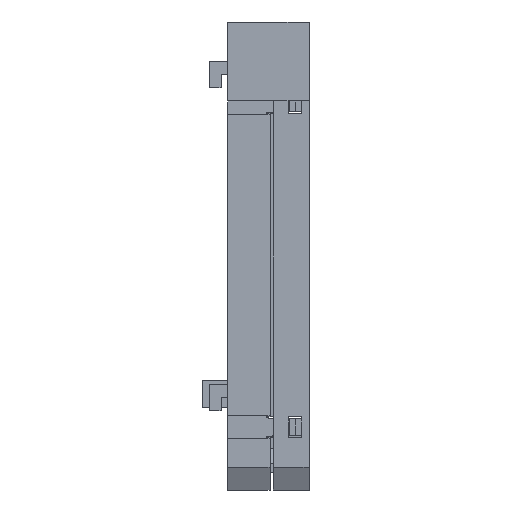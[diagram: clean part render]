
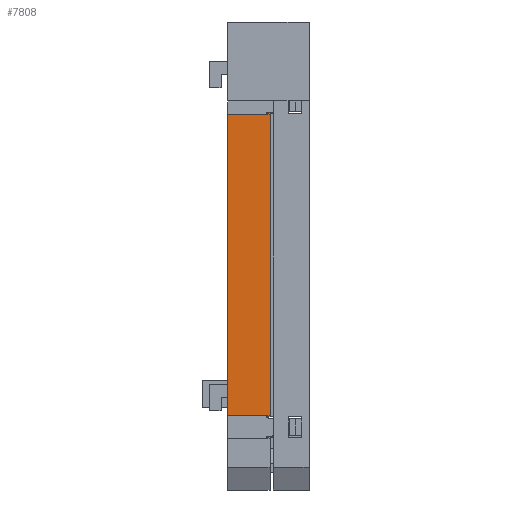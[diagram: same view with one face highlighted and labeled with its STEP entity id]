
A CAD part, front view. The second image highlights one B-rep face of the part: STEP entity #7808.
In plain terms, the highlighted planar face has unit normal (0, -1, 0).
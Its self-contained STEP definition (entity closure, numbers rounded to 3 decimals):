
#697 = DIRECTION ( 'NONE',  ( 0., 0., -1. ) ) ;
#841 = ORIENTED_EDGE ( 'NONE', *, *, #9013, .T. ) ;
#1599 = FACE_OUTER_BOUND ( 'NONE', #13267, .T. ) ;
#1627 = DIRECTION ( 'NONE',  ( 1., 0., 0. ) ) ;
#1836 = ORIENTED_EDGE ( 'NONE', *, *, #12152, .T. ) ;
#2569 = VECTOR ( 'NONE', #697, 1000. ) ;
#3546 = CARTESIAN_POINT ( 'NONE',  ( 6.5, 0., -11.141 ) ) ;
#3764 = LINE ( 'NONE', #8932, #16731 ) ;
#4505 = VECTOR ( 'NONE', #14011, 1000. ) ;
#4727 = CARTESIAN_POINT ( 'NONE',  ( 6.5, 0., 0. ) ) ;
#5441 = DIRECTION ( 'NONE',  ( 0., 1., 0. ) ) ;
#6927 = CARTESIAN_POINT ( 'NONE',  ( 0., 0., -11.141 ) ) ;
#7079 = CARTESIAN_POINT ( 'NONE',  ( 7., 0., 0. ) ) ;
#7180 = VECTOR ( 'NONE', #16215, 1000. ) ;
#7808 = ADVANCED_FACE ( 'NONE', ( #1599 ), #14386, .F. ) ;
#8430 = LINE ( 'NONE', #13325, #2569 ) ;
#8932 = CARTESIAN_POINT ( 'NONE',  ( 0., 0., -57.349 ) ) ;
#9013 = EDGE_CURVE ( 'NONE', #13188, #14453, #3764, .T. ) ;
#9039 = AXIS2_PLACEMENT_3D ( 'NONE', #7079, #5441, #9160 ) ;
#9160 = DIRECTION ( 'NONE',  ( 0., 0., 1. ) ) ;
#9534 = CARTESIAN_POINT ( 'NONE',  ( 6.5, 0., -57.349 ) ) ;
#9542 = LINE ( 'NONE', #6927, #7180 ) ;
#9830 = VERTEX_POINT ( 'NONE', #10993 ) ;
#10993 = CARTESIAN_POINT ( 'NONE',  ( 0., 0., -11.141 ) ) ;
#11274 = LINE ( 'NONE', #4727, #4505 ) ;
#11678 = VERTEX_POINT ( 'NONE', #3546 ) ;
#11755 = EDGE_CURVE ( 'NONE', #9830, #11678, #9542, .T. ) ;
#12152 = EDGE_CURVE ( 'NONE', #9830, #13188, #8430, .T. ) ;
#12920 = EDGE_CURVE ( 'NONE', #11678, #14453, #11274, .T. ) ;
#13188 = VERTEX_POINT ( 'NONE', #14834 ) ;
#13267 = EDGE_LOOP ( 'NONE', ( #1836, #841, #15443, #15589 ) ) ;
#13325 = CARTESIAN_POINT ( 'NONE',  ( 0., 0., 0. ) ) ;
#14011 = DIRECTION ( 'NONE',  ( 0., 0., -1. ) ) ;
#14386 = PLANE ( 'NONE',  #9039 ) ;
#14453 = VERTEX_POINT ( 'NONE', #9534 ) ;
#14834 = CARTESIAN_POINT ( 'NONE',  ( 0., 0., -57.349 ) ) ;
#15443 = ORIENTED_EDGE ( 'NONE', *, *, #12920, .F. ) ;
#15589 = ORIENTED_EDGE ( 'NONE', *, *, #11755, .F. ) ;
#16215 = DIRECTION ( 'NONE',  ( 1., 0., 0. ) ) ;
#16731 = VECTOR ( 'NONE', #1627, 1000. ) ;
